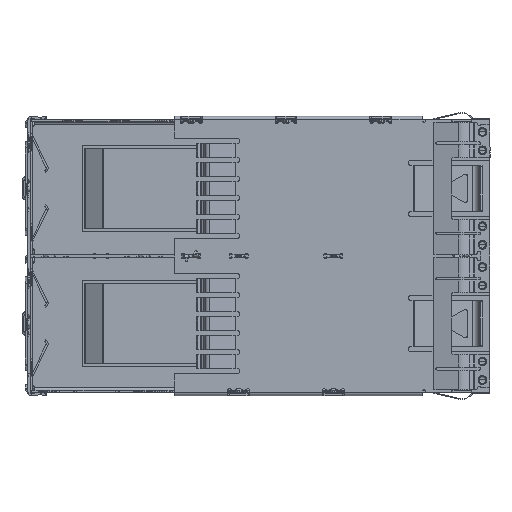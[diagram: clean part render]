
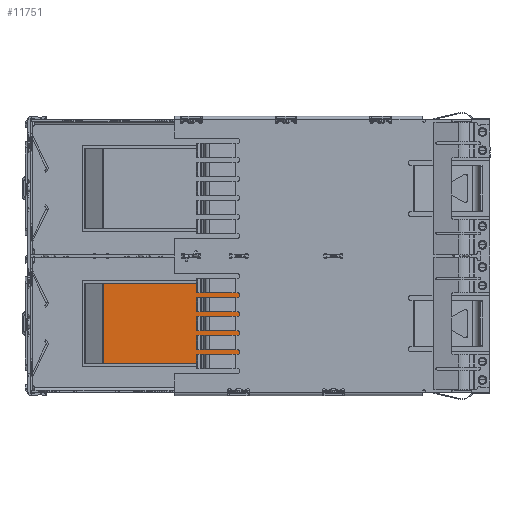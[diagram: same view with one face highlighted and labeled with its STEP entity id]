
A CAD part, front view. The second image highlights one B-rep face of the part: STEP entity #11751.
In plain terms, the highlighted planar face has unit normal (0, -1, 0).
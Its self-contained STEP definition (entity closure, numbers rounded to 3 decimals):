
#5632 = VERTEX_POINT ( 'NONE', #81743 ) ;
#5638 = VERTEX_POINT ( 'NONE', #81792 ) ;
#5643 = VERTEX_POINT ( 'NONE', #81750 ) ;
#5652 = VERTEX_POINT ( 'NONE', #81825 ) ;
#11751 = ADVANCED_FACE ( 'NONE', ( #42441 ), #34511, .F. ) ;
#13758 = EDGE_LOOP ( 'NONE', ( #102803, #102800, #102793, #102825 ) ) ;
#34492 = CARTESIAN_POINT ( 'NONE',  ( -11.095, -1.1, 4.25 ) ) ;
#34511 = PLANE ( 'NONE',  #86687 ) ;
#34512 = DIRECTION ( 'NONE',  ( 0., 1., 0. ) ) ;
#34513 = DIRECTION ( 'NONE',  ( -1., 0., 0. ) ) ;
#36128 = LINE ( 'NONE', #84326, #36130 ) ;
#36130 = VECTOR ( 'NONE', #84338, 1000. ) ;
#42441 = FACE_OUTER_BOUND ( 'NONE', #13758, .T. ) ;
#72756 = EDGE_CURVE ( 'NONE', #5638, #5632, #96354, .T. ) ;
#72758 = EDGE_CURVE ( 'NONE', #5632, #5643, #96370, .T. ) ;
#72770 = EDGE_CURVE ( 'NONE', #5643, #5652, #96366, .T. ) ;
#72811 = EDGE_CURVE ( 'NONE', #5638, #5652, #36128, .T. ) ;
#81743 = CARTESIAN_POINT ( 'NONE',  ( -11.041, -1.1, -4.25 ) ) ;
#81750 = CARTESIAN_POINT ( 'NONE',  ( 11.041, -1.1, -4.25 ) ) ;
#81792 = CARTESIAN_POINT ( 'NONE',  ( -11.041, -1.1, 4.25 ) ) ;
#81825 = CARTESIAN_POINT ( 'NONE',  ( 11.041, -1.1, 4.25 ) ) ;
#84162 = DIRECTION ( 'NONE',  ( 1., 0., 0. ) ) ;
#84166 = CARTESIAN_POINT ( 'NONE',  ( -11.095, -1.1, -4.25 ) ) ;
#84172 = CARTESIAN_POINT ( 'NONE',  ( -11.041, -1.1, 4.25 ) ) ;
#84189 = DIRECTION ( 'NONE',  ( 0., 0., -1. ) ) ;
#84259 = CARTESIAN_POINT ( 'NONE',  ( 11.041, -1.1, 4.25 ) ) ;
#84260 = DIRECTION ( 'NONE',  ( 0., 0., 1. ) ) ;
#84326 = CARTESIAN_POINT ( 'NONE',  ( -11.095, -1.1, 4.25 ) ) ;
#84338 = DIRECTION ( 'NONE',  ( 1., 0., 0. ) ) ;
#86687 = AXIS2_PLACEMENT_3D ( 'NONE', #34492, #34512, #34513 ) ;
#96263 = VECTOR ( 'NONE', #84162, 1000. ) ;
#96286 = VECTOR ( 'NONE', #84260, 1000. ) ;
#96329 = VECTOR ( 'NONE', #84189, 1000. ) ;
#96354 = LINE ( 'NONE', #84172, #96329 ) ;
#96366 = LINE ( 'NONE', #84259, #96286 ) ;
#96370 = LINE ( 'NONE', #84166, #96263 ) ;
#102793 = ORIENTED_EDGE ( 'NONE', *, *, #72811, .F. ) ;
#102800 = ORIENTED_EDGE ( 'NONE', *, *, #72770, .T. ) ;
#102803 = ORIENTED_EDGE ( 'NONE', *, *, #72758, .T. ) ;
#102825 = ORIENTED_EDGE ( 'NONE', *, *, #72756, .T. ) ;
